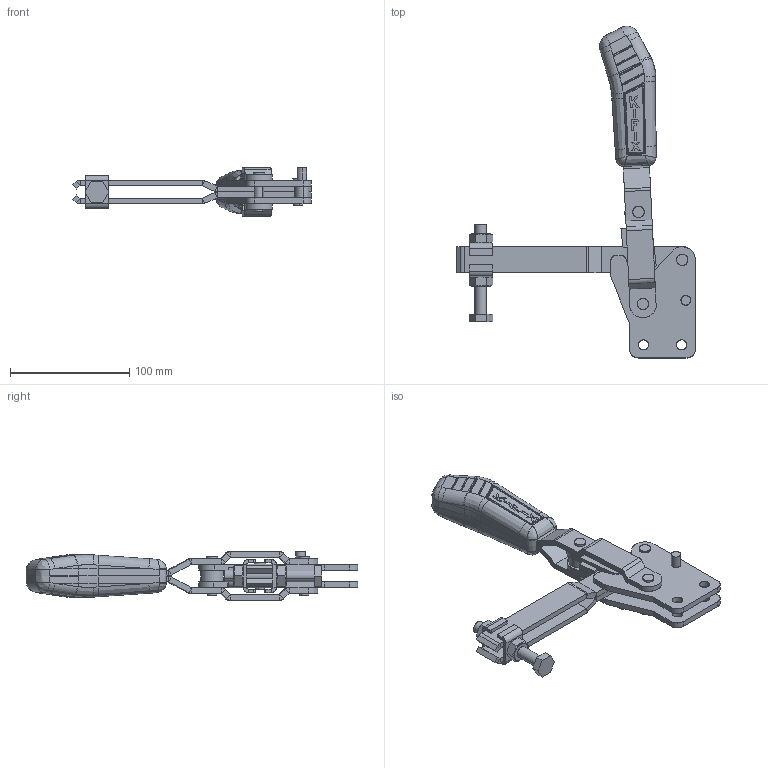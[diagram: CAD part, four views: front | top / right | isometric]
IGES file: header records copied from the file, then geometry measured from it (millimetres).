
Start section: SolidWorks IGES file using analytic representation for surfaces
Global section: file name: C:\Projetos\Grampos\KF-111\KF-111 RBL\KF-111 RBL.IGS; native system: SolidWorks 2013; preprocessor: SolidWorks 2013; author: Ricardo; date: 140728.160126; units: millimetre
Bounding box: 200.38 x 278.69 x 41 mm (x, y, z)
Surface area: 111483.2 mm2 (no closed solid volume)
Topology: 0 solids, 0 shells, 845 faces, 8924 edges, 8897 vertices
Faces by surface type: bspline 507, revolution 338
